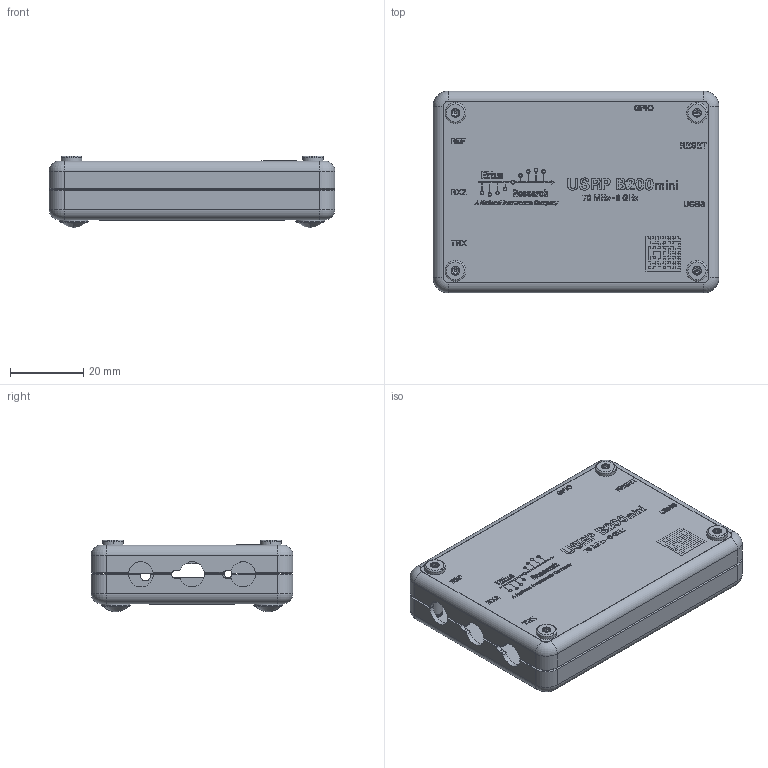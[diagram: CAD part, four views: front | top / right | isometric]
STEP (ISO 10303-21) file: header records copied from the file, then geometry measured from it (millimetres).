
FILE_DESCRIPTION(('Creo Elements/Direct Modeling STEP Export'),'2;1');
FILE_NAME('B200mini_enclosure-only.stp','2018-10-01T20:20:43',(''),(''),'PTC Creo Elements/Direct Modeling STEP processor for AP214 (Solid Model)','PTC Creo Elements/Direct Modeling 19.0E 27-Jun-2016 (C) Parametric Technology GmbH','');
FILE_SCHEMA(('AUTOMOTIVE_DESIGN { 1 0 10303 214 1 1 1 1 }'));
Length unit declared in the file: millimetre
Products named in the file (13): silkscreen-B200mini; top_plateUSRP-B200mini; standoff-unthreaded-8mmL_SO-43.1-8ZI; top-plateUSRP-B200mini.1; top-plateUSRP_B200mini; bottom_plateUSRP-B200mini; standoff-M3_6.35mmL-thru_DSO-M3-6.35ZI.1; bottom-plateUSRP-B200mini.1; round-shim-.125id_.1875od_.010thk_MEI.3; screw-M3x14mmL-T8-low-wafer-head-blk-oxide.1; Label_Product_L00340A-01.1; foot_adh-Blk-.312inDia-.085h_BS-27_bumper-specialties.1.1; B200mini_USRP_enclosure-assy
Assembly tree (27 placements, depth 4):
  B200mini_USRP_enclosure-assy
    screw-M3x14mmL-T8-low-wafer-head-blk-oxide.1  x4
    foot_adh-Blk-.312inDia-.085h_BS-27_bumper-specialties.1.1  x4
    Label_Product_L00340A-01.1
    round-shim-.125id_.1875od_.010thk_MEI.3  x4
    bottom-plateUSRP-B200mini.1
      standoff-M3_6.35mmL-thru_DSO-M3-6.35ZI.1  x4
      bottom_plateUSRP-B200mini
    top-plateUSRP_B200mini
      top-plateUSRP-B200mini.1
        standoff-unthreaded-8mmL_SO-43.1-8ZI  x4
        top_plateUSRP-B200mini
      silkscreen-B200mini
Bounding box: 78.17 x 55.19 x 19.54 mm (x, y, z)
Volume: 15060.7 mm3; surface area: 35862.5 mm2
Topology: 24 solids, 24 shells, 1536 faces, 6226 edges, 5034 vertices
Faces by surface type: cylinder 741, plane 627, cone 64, bspline 48, torus 40, extrusion 8, revolution 8
Entity records: 67959 total; most frequent: CARTESIAN_POINT 29419, ORIENTED_EDGE 8880, DIRECTION 4936, EDGE_CURVE 4418, VERTEX_POINT 3846, VECTOR 3416, LINE 3414, EDGE_LOOP 1146
